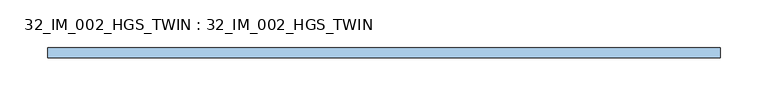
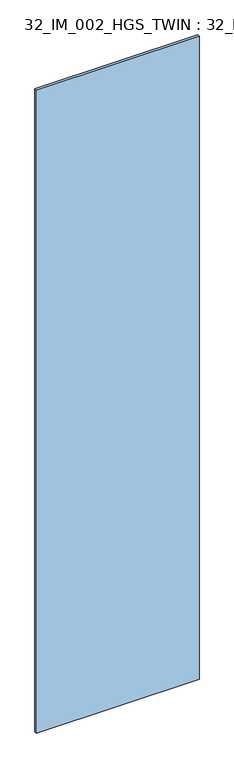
"""IFC4 building model written with IfcOpenShell, lengths in millimetres: window geometry, 32_IM_002_HGS_TWIN : 32_IM_002_HGS_TWIN."""

from ifc_helpers import new_model, si_unit, origin, origin_with_axes, place, context, project, spatial, polyline, outline, extrude, source, transform, mapped, element, save


def window_32_im_002_hgs_twin_32_im_002_hgs_twin_d93e67b0(model_context):
    return source(origin(), model_context, "Body", "SweptSolid", [
        extrude(outline(polyline([(353.8548433, 5.4), (353.8548433, -5.4), (-353.8548433, -5.4), (-353.8548433, 5.4), (353.8548433, 5.4)])), origin_with_axes(), (0.0, 0.0, 1.0), 2956.0),
    ])


if __name__ == "__main__":
    model = new_model("IFC4")
    model_context = context("Model", 3, world=origin())
    ifc_project = project(units=[si_unit("LENGTHUNIT", "METRE", prefix="MILLI")], contexts=[model_context])
    site = spatial("IfcSite", under=ifc_project)
    building = spatial("IfcBuilding", under=site)
    placement = place(None, origin())
    window_32_im_002_hgs_twin_32_im_002_hgs_twin_shape = window_32_im_002_hgs_twin_32_im_002_hgs_twin_d93e67b0(model_context)
    element("IfcWindow", 1, ObjectType="32_IM_002_HGS_TWIN : 32_IM_002_HGS_TWIN", at=placement, inside=building, context=model_context, shape_type="MappedRepresentation", body=[
        mapped(window_32_im_002_hgs_twin_32_im_002_hgs_twin_shape, transform((0.0, 0.0, 0.0), x_axis=(1.0, 0.0, 0.0), y_axis=(0.0, 1.0, 0.0), z_axis=(0.0, 0.0, 1.0))),
    ])
    save(model, "model.ifc")
